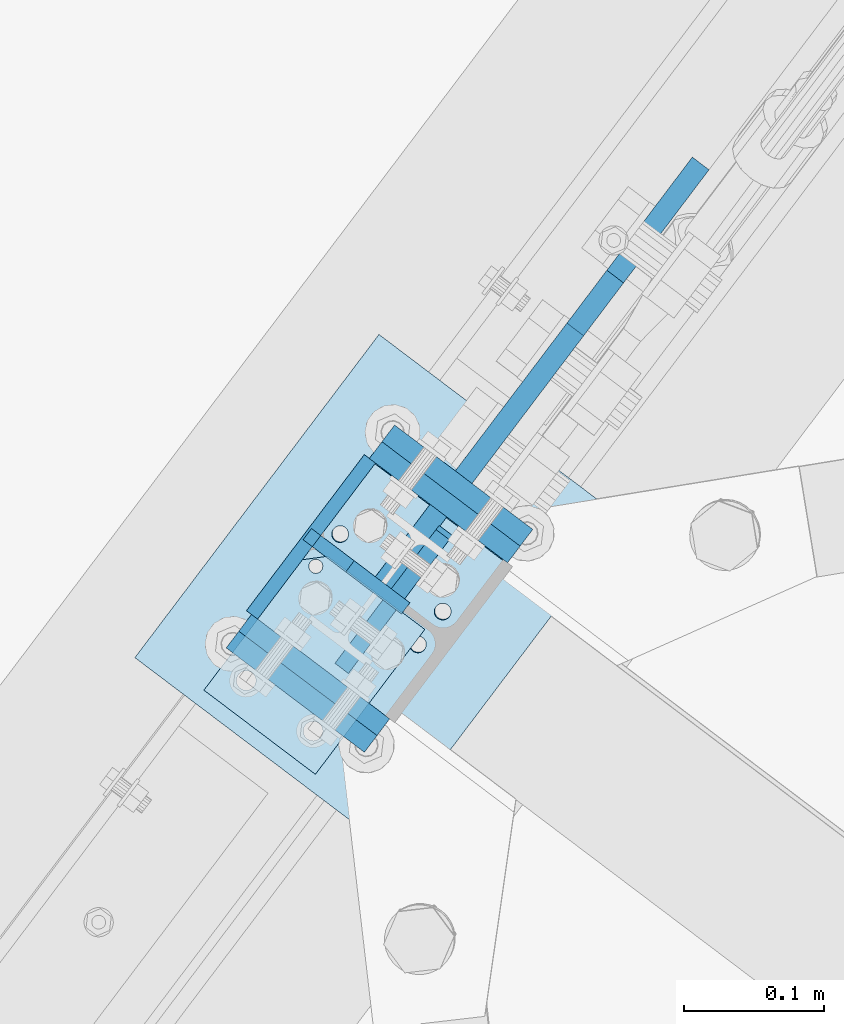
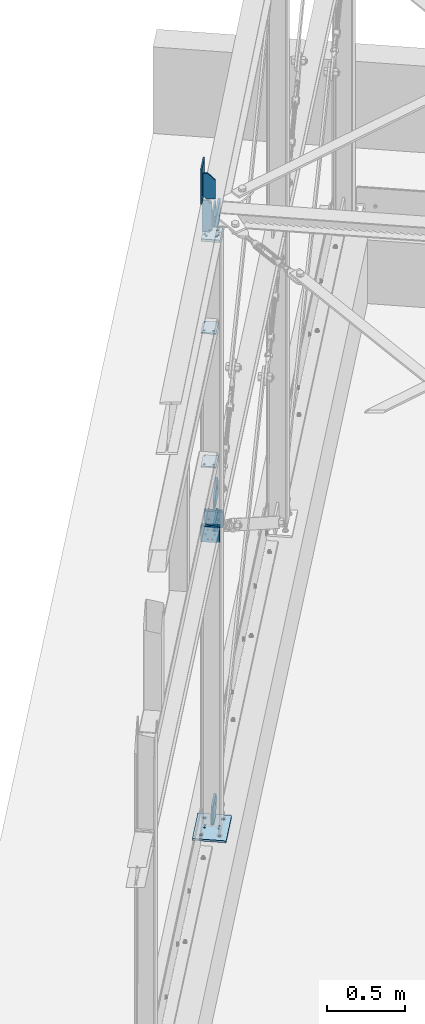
# One storey, part 58 of 476: 16 plates, 57 openings.
"""IFC2X3 building model written with IfcOpenShell, lengths in millimetres."""

from ifc_helpers import new_model, entity, si_unit, converted_unit, point, frame, frame_2d, origin, origin_with_axes, origin_2d_with_axis, place, context, project, spatial, polyline, circle_curve, line_curve, trimmed, segment, composite_curve, circle, outline, extrude, material, layer, layer_set, element, save


model = new_model("IFC2X3")

# Units and contexts
model_context = context("Model", 3, precision=1e-09, world=origin_with_axes())
ifc_project = project(units=[si_unit("LENGTHUNIT", "METRE", prefix="MILLI"), si_unit("AREAUNIT", "SQUARE_METRE"), si_unit("VOLUMEUNIT", "CUBIC_METRE"), converted_unit("PLANEANGLEUNIT", "DEGREE", entity("IfcPlaneAngleMeasure", 0.01745329), si_unit("PLANEANGLEUNIT", "RADIAN"), dimensions=[0, 0, 0, 0, 0, 0, 0])], contexts=[model_context])

# Site, building, storey
site_placement = place(None, origin_with_axes())
site = spatial("IfcSite", under=ifc_project, at=site_placement, Name="mKR Teilneubau & Sanierung BA1 - Ostfildern", CompositionType="ELEMENT")
building_placement = place(site_placement, origin_with_axes())
building = spatial("IfcBuilding", under=site, at=building_placement, Name="Struktur 1", CompositionType="ELEMENT")
storey_placement = place(building_placement, origin_with_axes())
storey = spatial("IfcBuildingStorey", under=building, at=storey_placement, Name="Default Storey", CompositionType="ELEMENT", Elevation=0.0)

# Plate
ifc_material = material(Name="S235JR")
ifc_layer_1 = layer(ifc_material, 10.0)
ifc_layer_set_1 = layer_set([ifc_layer_1], Name="S235JR")
plate_1_placement = place(None, frame((4334.810388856, 5542.08192747, 5680.427730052), z_axis=(-0.797941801, 0.602734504, 0.0), x_axis=(0.602734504, 0.797941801, 0.0)))
element("IfcPlate", 1, at=plate_1_placement, inside=storey, material=ifc_layer_set_1, Name="-", ObjectType="-", context=model_context, shape_type="SweptSolid", body=[
    extrude(outline(polyline([(-30.0, -74.09833483), (110.0, -74.09833483), (110.0, 196.693894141), (-30.0, 200.90166517), (-30.0, -74.09833483)])), origin_with_axes(), (0.0, 0.0, 1.0), 10.0),
])

# Plate, openings
plate_2_placement = place(None, frame((4419.747980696, 5521.798750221, 5681.179396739), z_axis=(-0.602634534, -0.798017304, 0.0), x_axis=(-0.798017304, 0.602634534, 0.0)))
plate_2 = element("IfcPlate", 2, at=plate_2_placement, inside=storey, material=ifc_layer_set_1, Name="-", ObjectType="-", context=model_context, shape_type="SweptSolid", body=[
    extrude(outline(polyline([(0.0, 0.0), (80.0, 0.0), (80.0, 200.0), (0.0, 197.595559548), (0.0, 0.0)])), origin_with_axes(), (0.0, 0.0, -1.0), 10.0),
])
opening_1_placement = place(plate_2_placement, frame((0.0, 0.0, 0.01), z_axis=(0.0, 0.0, 1.0), x_axis=(1.0, 0.0, 0.0)))
element("IfcOpeningElement", 3, at=opening_1_placement, cuts=plate_2, ObjectType="Opening", context=model_context, shape_type="SweptSolid", body=[
    extrude(outline(polyline([(0.0, 0.0), (50.0, 0.0), (0.0, 50.0), (0.0, 0.0)])), origin(), (0.0, 0.0, -1.0), 10.02),
])
opening_2_placement = place(plate_2_placement, frame((80.0, 200.0, 0.01), z_axis=(0.0, 0.0, 1.0), x_axis=(-0.999548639, -0.03004194, 0.0)))
element("IfcOpeningElement", 4, at=opening_2_placement, cuts=plate_2, ObjectType="Opening", context=model_context, shape_type="SweptSolid", body=[
    extrude(outline(polyline([(0.0, 0.0), (20.0, 0.0), (0.600838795, 19.990972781), (0.0, 0.0)])), origin(), (0.0, 0.0, -1.0), 10.02),
])

plate_3_placement = place(None, frame((4275.290943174, 5463.285984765, 4520.0), z_axis=(0.0, 0.0, -1.0), x_axis=(0.602734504, 0.797941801, 0.0)))
plate_3 = element("IfcPlate", 5, at=plate_3_placement, inside=storey, material=ifc_layer_set_1, Name="-", ObjectType="-", context=model_context, shape_type="SweptSolid", body=[
    extrude(outline(polyline([(5.0, 0.0), (135.0, 0.0), (135.0, 100.0), (5.0, 100.0), (5.0, 0.0)])), origin_with_axes(), (0.0, 0.0, 1.0), 10.0),
])
opening_3_placement = place(plate_3_placement, frame((0.0, 0.0, -0.01), z_axis=(0.0, 0.0, 1.0), x_axis=(1.0, 0.0, 0.0)))
element("IfcOpeningElement", 6, at=opening_3_placement, cuts=plate_3, ObjectType="Opening", context=model_context, shape_type="SweptSolid", body=[
    extrude(outline(composite_curve([segment(trimmed(line_curve((135.0, 0.0), (0.0, 1.0), 13.0), [point((135.0, 0.0))], [point((135.0, 13.0))], True, "CARTESIAN"), True, "CONTINUOUS"), segment(trimmed(circle_curve(frame_2d((122.0, 13.0), x_axis=(-1.0, 0.0)), 13.0), [point((135.0, 13.0))], [point((122.0, 0.0))], False, "CARTESIAN"), True, "CONTINUOUS"), segment(trimmed(line_curve((122.0, 0.0), (1.0, 0.0), 13.0), [point((122.0, 0.0))], [point((135.0, 0.0))], True, "CARTESIAN"), True, "CONTINUOUS")], self_intersect=False)), origin(), (0.0, 0.0, 1.0), 10.02),
])
opening_4_placement = place(plate_3_placement, frame((124.0, 10.5, -0.5), z_axis=(0.0, 0.0, 1.0), x_axis=(0.0, -1.0, 0.0)))
element("IfcOpeningElement", 7, at=opening_4_placement, cuts=plate_3, ObjectType="Opening", context=model_context, shape_type="SweptSolid", body=[
    extrude(circle(Radius=5.001, at=origin_2d_with_axis()), origin(), (0.0, 0.0, 1.0), 11.0),
])
opening_5_placement = place(plate_3_placement, frame((28.75, 50.0, 10.5), z_axis=(0.0, 0.0, -1.0), x_axis=(-1.0, 0.0, 0.0)))
element("IfcOpeningElement", 8, at=opening_5_placement, cuts=plate_3, ObjectType="Opening", context=model_context, shape_type="SweptSolid", body=[
    extrude(circle(Radius=7.001, at=frame_2d((0.0, 30.0), x_axis=(1.0, 0.0))), origin(), (0.0, 0.0, 1.0), 11.0),
])
opening_6_placement = place(plate_3_placement, frame((28.75, 50.0, 10.5), z_axis=(0.0, 0.0, -1.0), x_axis=(-1.0, 0.0, 0.0)))
element("IfcOpeningElement", 9, at=opening_6_placement, cuts=plate_3, ObjectType="Opening", context=model_context, shape_type="SweptSolid", body=[
    extrude(circle(Radius=7.001, at=frame_2d((0.0, -30.0), x_axis=(1.0, 0.0))), origin(), (0.0, 0.0, 1.0), 11.0),
])

plate_4_placement = place(None, frame((4401.14946096, 5535.834895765, 5223.363574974), z_axis=(0.602734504, 0.797941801, 0.0), x_axis=(-0.797941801, 0.602734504, 0.0)))
plate_4 = element("IfcPlate", 10, at=plate_4_placement, inside=storey, material=ifc_layer_set_1, Name="Stiffener#2", ObjectType="Stiffener#2", context=model_context, shape_type="SweptSolid", body=[
    extrude(outline(polyline([(0.0, 0.0), (65.0, 0.0), (65.0, 246.410800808), (0.0, 246.410800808), (0.0, 0.0)])), origin_with_axes(), (0.0, 0.0, 1.0), 10.0),
])
opening_7_placement = place(plate_4_placement, frame((0.0, 0.0, -0.01), z_axis=(0.0, 0.0, 1.0), x_axis=(1.0, 0.0, 0.0)))
element("IfcOpeningElement", 11, at=opening_7_placement, cuts=plate_4, ObjectType="Opening", context=model_context, shape_type="SweptSolid", body=[
    extrude(outline(composite_curve([segment(trimmed(line_curve((0.0, 246.410800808), (0.0, -1.0), 15.0), [point((0.0, 246.410800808))], [point((0.0, 231.410800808))], True, "CARTESIAN"), True, "CONTINUOUS"), segment(trimmed(circle_curve(frame_2d((15.0, 231.410800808), x_axis=(-1.0, 0.0)), 15.0), [point((0.0, 231.410800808))], [point((15.0, 246.410800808))], False, "CARTESIAN"), True, "CONTINUOUS"), segment(trimmed(line_curve((15.0, 246.410800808), (-1.0, 0.0), 15.0), [point((15.0, 246.410800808))], [point((0.0, 246.410800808))], True, "CARTESIAN"), True, "CONTINUOUS")], self_intersect=False)), origin(), (0.0, 0.0, 1.0), 10.02),
])
opening_8_placement = place(plate_4_placement, frame((0.0, 0.0, -0.01), z_axis=(0.0, 0.0, 1.0), x_axis=(1.0, 0.0, 0.0)))
element("IfcOpeningElement", 12, at=opening_8_placement, cuts=plate_4, ObjectType="Opening", context=model_context, shape_type="SweptSolid", body=[
    extrude(outline(composite_curve([segment(trimmed(line_curve((0.0, 0.0), (1.0, 0.0), 15.0), [point((0.0, 0.0))], [point((15.0, 0.0))], True, "CARTESIAN"), True, "CONTINUOUS"), segment(trimmed(circle_curve(frame_2d((15.0, 15.0), x_axis=(-1.0, 0.0)), 15.0), [point((15.0, 0.0))], [point((0.0, 15.0))], False, "CARTESIAN"), True, "CONTINUOUS"), segment(trimmed(line_curve((0.0, 15.0), (0.0, -1.0), 15.0), [point((0.0, 15.0))], [point((0.0, 0.0))], True, "CARTESIAN"), True, "CONTINUOUS")], self_intersect=False)), origin(), (0.0, 0.0, 1.0), 10.02),
])
opening_9_placement = place(plate_4_placement, frame((15.0, 13.499322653, -0.5), z_axis=(0.0, 0.0, 1.0), x_axis=(0.0, -1.0, 0.0)))
element("IfcOpeningElement", 13, at=opening_9_placement, cuts=plate_4, ObjectType="Opening", context=model_context, shape_type="SweptSolid", body=[
    extrude(circle(Radius=7.001, at=origin_2d_with_axis()), origin(), (0.0, 0.0, 1.0), 11.0),
])
opening_10_placement = place(plate_4_placement, frame((15.0, 233.212033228, -0.5), z_axis=(0.0, 0.0, 1.0), x_axis=(0.0, -1.0, 0.0)))
element("IfcOpeningElement", 14, at=opening_10_placement, cuts=plate_4, ObjectType="Opening", context=model_context, shape_type="SweptSolid", body=[
    extrude(circle(Radius=7.001, at=origin_2d_with_axis()), origin(), (0.0, 0.0, 1.0), 11.0),
])

# Plate, opening
ifc_layer_2 = layer(ifc_material, 15.0)
ifc_layer_set_2 = layer_set([ifc_layer_2], Name="S235JR")
plate_5_placement = place(None, frame((4458.292986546, 5624.260574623, 5214.513592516), z_axis=(0.797941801, -0.602734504, 0.0), x_axis=(0.0, 0.0, -1.0)))
plate_5 = element("IfcPlate", 15, at=plate_5_placement, inside=storey, material=ifc_layer_set_2, Name="-", ObjectType="-", context=model_context, shape_type="SweptSolid", body=[
    extrude(outline(polyline([(0.0, 0.0), (50.0, 0.0), (153.091413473, 235.380970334), (87.732289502, 281.513224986), (-8.461022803, 281.513224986), (0.0, 0.0)])), origin_with_axes(), (0.0, 0.0, 1.0), 15.0),
])
opening_11_placement = place(plate_5_placement, frame((85.812659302, 209.427754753, 15.499999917), z_axis=(0.0, 0.0, -1.0), x_axis=(-0.576653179, -0.816989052, 0.0)))
element("IfcOpeningElement", 16, at=opening_11_placement, cuts=plate_5, ObjectType="Opening", context=model_context, shape_type="SweptSolid", body=[
    extrude(circle(Radius=16.001, at=origin_2d_with_axis()), origin(), (0.0, 0.0, 1.0), 16.0),
])

plate_6_placement = place(None, frame((4470.26209744, 5615.219569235, 2969.000000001), z_axis=(-0.797941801, 0.602734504, 0.0), x_axis=(0.0, 0.0, 1.0)))
plate_6 = element("IfcPlate", 17, at=plate_6_placement, inside=storey, material=ifc_layer_set_2, Name="-", ObjectType="-", context=model_context, shape_type="SweptSolid", body=[
    extrude(outline(polyline([(0.0, 0.0), (66.252259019, 0.0), (163.818653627, 132.584146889), (99.384680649, 180.0), (0.0, 180.0), (0.0, 0.0)])), origin_with_axes(), (0.0, 0.0, 1.0), 15.0),
])
opening_12_placement = place(plate_6_placement, frame((96.039777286, 107.966593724, -0.5), z_axis=(0.0, 0.0, 1.0), x_axis=(-0.592698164, -0.805424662, 0.0)))
element("IfcOpeningElement", 18, at=opening_12_placement, cuts=plate_6, ObjectType="Opening", context=model_context, shape_type="SweptSolid", body=[
    extrude(circle(Radius=16.001, at=origin_2d_with_axis()), origin(), (0.0, 0.0, 1.0), 16.0),
])

plate_7_placement = place(None, frame((4458.292970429, 5624.260586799, 2855.000000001), z_axis=(0.797941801, -0.602734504, 0.0), x_axis=(0.0, 0.0, -1.0)))
plate_7 = element("IfcPlate", 19, at=plate_7_placement, inside=storey, material=ifc_layer_set_2, Name="-", ObjectType="-", context=model_context, shape_type="SweptSolid", body=[
    extrude(outline(polyline([(0.0, 0.0), (60.204013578, 0.0), (152.720460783, 134.709788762), (86.775053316, 179.999999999), (1e-09, 180.0), (0.0, 0.0)])), origin_with_axes(), (0.0, 0.0, 1.0), 15.0),
])
opening_13_placement = place(plate_7_placement, frame((85.780098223, 107.895839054, 15.5), z_axis=(0.0, 0.0, -1.0), x_axis=(-0.565737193, -0.82458561, 0.0)))
element("IfcOpeningElement", 20, at=opening_13_placement, cuts=plate_7, ObjectType="Opening", context=model_context, shape_type="SweptSolid", body=[
    extrude(circle(Radius=16.001, at=origin_2d_with_axis()), origin(), (0.0, 0.0, 1.0), 16.0),
])

# Plate, openings
plate_8_placement = place(None, frame((4411.645564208, 5537.618931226, 544.999999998), z_axis=(-0.797941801, 0.602734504, 0.0), x_axis=(0.0, 0.0, 1.0)))
plate_8 = element("IfcPlate", 21, at=plate_8_placement, inside=storey, material=ifc_layer_set_2, Name="-", ObjectType="-", context=model_context, shape_type="SweptSolid", body=[
    extrude(outline(polyline([(0.0, 0.0), (155.808276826, 0.0), (155.808276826, 153.459788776), (89.862869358, 198.75), (0.0, 138.75), (0.0, 0.0)])), origin_with_axes(), (0.0, 0.0, 1.0), 15.0),
])
opening_14_placement = place(plate_8_placement, frame((0.0, 0.0, -0.01), z_axis=(0.0, 0.0, 1.0), x_axis=(1.0, 0.0, 0.0)))
element("IfcOpeningElement", 22, at=opening_14_placement, cuts=plate_8, ObjectType="Opening", context=model_context, shape_type="SweptSolid", body=[
    extrude(outline(polyline([(0.0, 0.0), (20.0, 0.0), (0.0, 20.0), (0.0, 0.0)])), origin(), (0.0, 0.0, 1.0), 15.02),
])
opening_15_placement = place(plate_8_placement, frame((88.806644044, 126.687918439, -0.5), z_axis=(0.0, 0.0, 1.0), x_axis=(-0.56573719, -0.824585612, 0.0)))
element("IfcOpeningElement", 23, at=opening_15_placement, cuts=plate_8, ObjectType="Opening", context=model_context, shape_type="SweptSolid", body=[
    extrude(circle(Radius=16.001, at=origin_2d_with_axis()), origin(), (0.0, 0.0, 1.0), 16.0),
])

plate_9_placement = place(None, frame((4228.833363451, 5490.544346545, 545.0), z_axis=(0.0, 0.0, -1.0), x_axis=(0.602734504, 0.797941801, 0.0)))
plate_9 = element("IfcPlate", 24, at=plate_9_placement, inside=storey, material=ifc_layer_set_2, Name="Baseplate", ObjectType="Baseplate", context=model_context, shape_type="SweptSolid", body=[
    extrude(outline(polyline([(0.0, 0.0), (290.0, 0.0), (290.0, 220.0), (0.0, 220.0), (0.0, 0.0)])), origin_with_axes(), (0.0, 0.0, 1.0), 15.0),
])
opening_16_placement = place(plate_9_placement, frame((50.0, 170.0, 15.5), z_axis=(0.0, 0.0, -1.0), x_axis=(1.0, 0.0, 0.0)))
element("IfcOpeningElement", 25, at=opening_16_placement, cuts=plate_9, ObjectType="Opening", context=model_context, shape_type="SweptSolid", body=[
    extrude(circle(Radius=11.001, at=frame_2d((190.0, 120.0), x_axis=(1.0, 0.0))), origin(), (0.0, 0.0, 1.0), 16.0),
])
opening_17_placement = place(plate_9_placement, frame((50.0, 170.0, 15.5), z_axis=(0.0, 0.0, -1.0), x_axis=(1.0, 0.0, 0.0)))
element("IfcOpeningElement", 26, at=opening_17_placement, cuts=plate_9, ObjectType="Opening", context=model_context, shape_type="SweptSolid", body=[
    extrude(circle(Radius=11.001, at=frame_2d((0.0, 120.0), x_axis=(1.0, 0.0))), origin(), (0.0, 0.0, 1.0), 16.0),
])
opening_18_placement = place(plate_9_placement, frame((50.0, 170.0, 15.5), z_axis=(0.0, 0.0, -1.0), x_axis=(1.0, 0.0, 0.0)))
element("IfcOpeningElement", 27, at=opening_18_placement, cuts=plate_9, ObjectType="Opening", context=model_context, shape_type="SweptSolid", body=[
    extrude(circle(Radius=11.001, at=frame_2d((190.0, 0.0), x_axis=(1.0, 0.0))), origin(), (0.0, 0.0, 1.0), 16.0),
])
opening_19_placement = place(plate_9_placement, frame((50.0, 170.0, 15.5), z_axis=(0.0, 0.0, -1.0), x_axis=(1.0, 0.0, 0.0)))
element("IfcOpeningElement", 28, at=opening_19_placement, cuts=plate_9, ObjectType="Opening", context=model_context, shape_type="SweptSolid", body=[
    extrude(circle(Radius=11.001, at=origin_2d_with_axis()), origin(), (0.0, 0.0, 1.0), 16.0),
])
opening_20_placement = place(plate_9_placement, frame((159.75, 156.0, 15.5), z_axis=(0.0, 0.0, -1.0), x_axis=(0.0, 1.0, 0.0)))
element("IfcOpeningElement", 29, at=opening_20_placement, cuts=plate_9, ObjectType="Opening", context=model_context, shape_type="SweptSolid", body=[
    extrude(circle(Radius=6.001, at=origin_2d_with_axis()), origin(), (0.0, 0.0, 1.0), 16.0),
])
opening_21_placement = place(plate_9_placement, frame((159.75, 64.0, 15.5), z_axis=(0.0, 0.0, -1.0), x_axis=(0.0, 1.0, 0.0)))
element("IfcOpeningElement", 30, at=opening_21_placement, cuts=plate_9, ObjectType="Opening", context=model_context, shape_type="SweptSolid", body=[
    extrude(circle(Radius=6.001, at=origin_2d_with_axis()), origin(), (0.0, 0.0, 1.0), 16.0),
])
opening_22_placement = place(plate_9_placement, frame((130.25, 64.0, 15.5), z_axis=(0.0, 0.0, -1.0), x_axis=(0.0, 1.0, 0.0)))
element("IfcOpeningElement", 31, at=opening_22_placement, cuts=plate_9, ObjectType="Opening", context=model_context, shape_type="SweptSolid", body=[
    extrude(circle(Radius=6.001, at=origin_2d_with_axis()), origin(), (0.0, 0.0, 1.0), 16.0),
])
opening_23_placement = place(plate_9_placement, frame((130.25, 156.0, 15.5), z_axis=(0.0, 0.0, -1.0), x_axis=(0.0, 1.0, 0.0)))
element("IfcOpeningElement", 32, at=opening_23_placement, cuts=plate_9, ObjectType="Opening", context=model_context, shape_type="SweptSolid", body=[
    extrude(circle(Radius=6.001, at=origin_2d_with_axis()), origin(), (0.0, 0.0, 1.0), 16.0),
])

plate_10_placement = place(None, frame((4343.730030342, 5460.150919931, 2912.000000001), z_axis=(0.602734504, 0.797941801, 0.0), x_axis=(0.0, 0.0, -1.0)))
plate_10 = element("IfcPlate", 33, at=plate_10_placement, inside=storey, material=ifc_layer_set_2, Name="Endplate#1", ObjectType="Endplate#1", context=model_context, shape_type="SweptSolid", body=[
    extrude(outline(polyline([(-62.0, -62.0), (62.0, -62.0), (62.0, 62.0), (-62.0, 62.0), (-62.0, -62.0)])), origin_with_axes(), (0.0, 0.0, 1.0), 15.0),
])
opening_24_placement = place(plate_10_placement, frame((-37.0, -14.5, 15.5), z_axis=(0.0, 0.0, -1.0), x_axis=(1.0, 0.0, 0.0)))
element("IfcOpeningElement", 34, at=opening_24_placement, cuts=plate_10, ObjectType="Opening", context=model_context, shape_type="SweptSolid", body=[
    extrude(circle(Radius=6.001, at=origin_2d_with_axis()), origin(), (0.0, 0.0, 1.0), 16.0),
])
opening_25_placement = place(plate_10_placement, frame((37.0, -14.5, 15.5), z_axis=(0.0, 0.0, -1.0), x_axis=(1.0, 0.0, 0.0)))
element("IfcOpeningElement", 35, at=opening_25_placement, cuts=plate_10, ObjectType="Opening", context=model_context, shape_type="SweptSolid", body=[
    extrude(circle(Radius=6.001, at=origin_2d_with_axis()), origin(), (0.0, 0.0, 1.0), 16.0),
])
opening_26_placement = place(plate_10_placement, frame((37.0, 14.5, 15.5), z_axis=(0.0, 0.0, -1.0), x_axis=(1.0, 0.0, 0.0)))
element("IfcOpeningElement", 36, at=opening_26_placement, cuts=plate_10, ObjectType="Opening", context=model_context, shape_type="SweptSolid", body=[
    extrude(circle(Radius=6.001, at=origin_2d_with_axis()), origin(), (0.0, 0.0, 1.0), 16.0),
])
opening_27_placement = place(plate_10_placement, frame((-37.0, 14.5, 15.5), z_axis=(0.0, 0.0, -1.0), x_axis=(1.0, 0.0, 0.0)))
element("IfcOpeningElement", 37, at=opening_27_placement, cuts=plate_10, ObjectType="Opening", context=model_context, shape_type="SweptSolid", body=[
    extrude(circle(Radius=6.001, at=origin_2d_with_axis()), origin(), (0.0, 0.0, 1.0), 16.0),
])
opening_28_placement = place(plate_10_placement, frame((0.0, -30.0, 15.5), z_axis=(0.0, 0.0, -1.0), x_axis=(0.0, -1.0, 0.0)))
element("IfcOpeningElement", 38, at=opening_28_placement, cuts=plate_10, ObjectType="Opening", context=model_context, shape_type="SweptSolid", body=[
    extrude(circle(Radius=7.001, at=origin_2d_with_axis()), origin(), (0.0, 0.0, 1.0), 16.0),
])
opening_29_placement = place(plate_10_placement, frame((0.0, 30.0, 15.5), z_axis=(0.0, 0.0, -1.0), x_axis=(-1.0, 0.0, 0.0)))
element("IfcOpeningElement", 39, at=opening_29_placement, cuts=plate_10, ObjectType="Opening", context=model_context, shape_type="SweptSolid", body=[
    extrude(circle(Radius=7.001, at=origin_2d_with_axis()), origin(), (0.0, 0.0, 1.0), 16.0),
])

plate_11_placement = place(None, frame((4361.81204935, 5484.08918613, 2912.000000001), z_axis=(-0.602734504, -0.797941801, 0.0), x_axis=(-0.797941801, 0.602734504, 0.0)))
plate_11 = element("IfcPlate", 40, at=plate_11_placement, inside=storey, material=ifc_layer_set_2, Name="T-plate", ObjectType="T-plate", context=model_context, shape_type="SweptSolid", body=[
    extrude(outline(polyline([(-62.0, -62.0), (62.0, -62.0), (62.0, 62.0), (-62.0, 62.0), (-62.0, -62.0)])), origin_with_axes(), (0.0, 0.0, 1.0), 15.0),
])
opening_30_placement = place(plate_11_placement, frame((29.999979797, 0.0, -0.5), z_axis=(0.0, 0.0, 1.0), x_axis=(0.0, -1.0, 0.0)))
element("IfcOpeningElement", 41, at=opening_30_placement, cuts=plate_11, ObjectType="Opening", context=model_context, shape_type="SweptSolid", body=[
    extrude(circle(Radius=7.001, at=origin_2d_with_axis()), origin(), (0.0, 0.0, 1.0), 16.0),
])
opening_31_placement = place(plate_11_placement, frame((-30.000020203, 0.0, -0.5), z_axis=(0.0, 0.0, 1.0), x_axis=(-1.0, 0.0, 0.0)))
element("IfcOpeningElement", 42, at=opening_31_placement, cuts=plate_11, ObjectType="Opening", context=model_context, shape_type="SweptSolid", body=[
    extrude(circle(Radius=7.001, at=origin_2d_with_axis()), origin(), (0.0, 0.0, 1.0), 16.0),
])

plate_12_placement = place(None, frame((4464.2769312, 5619.739280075, 2912.000000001), z_axis=(-0.602734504, -0.797941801, 0.0), x_axis=(0.0, 0.0, -1.0)))
plate_12 = element("IfcPlate", 43, at=plate_12_placement, inside=storey, material=ifc_layer_set_2, Name="Endplate#1", ObjectType="Endplate#1", context=model_context, shape_type="SweptSolid", body=[
    extrude(outline(polyline([(-62.0, -62.0), (62.0, -62.0), (62.0, 62.0), (-62.0, 62.0), (-62.0, -62.0)])), origin_with_axes(), (0.0, 0.0, 1.0), 15.0),
])
opening_32_placement = place(plate_12_placement, frame((-37.0, 14.5, 15.5), z_axis=(0.0, 0.0, -1.0), x_axis=(-1.0, 0.0, 0.0)))
element("IfcOpeningElement", 44, at=opening_32_placement, cuts=plate_12, ObjectType="Opening", context=model_context, shape_type="SweptSolid", body=[
    extrude(circle(Radius=6.001, at=origin_2d_with_axis()), origin(), (0.0, 0.0, 1.0), 16.0),
])
opening_33_placement = place(plate_12_placement, frame((37.0, 14.5, 15.5), z_axis=(0.0, 0.0, -1.0), x_axis=(-1.0, 0.0, 0.0)))
element("IfcOpeningElement", 45, at=opening_33_placement, cuts=plate_12, ObjectType="Opening", context=model_context, shape_type="SweptSolid", body=[
    extrude(circle(Radius=6.001, at=origin_2d_with_axis()), origin(), (0.0, 0.0, 1.0), 16.0),
])
opening_34_placement = place(plate_12_placement, frame((37.0, -14.5, 15.5), z_axis=(0.0, 0.0, -1.0), x_axis=(-1.0, 0.0, 0.0)))
element("IfcOpeningElement", 46, at=opening_34_placement, cuts=plate_12, ObjectType="Opening", context=model_context, shape_type="SweptSolid", body=[
    extrude(circle(Radius=6.001, at=origin_2d_with_axis()), origin(), (0.0, 0.0, 1.0), 16.0),
])
opening_35_placement = place(plate_12_placement, frame((-37.0, -14.5, 15.5), z_axis=(0.0, 0.0, -1.0), x_axis=(-1.0, 0.0, 0.0)))
element("IfcOpeningElement", 47, at=opening_35_placement, cuts=plate_12, ObjectType="Opening", context=model_context, shape_type="SweptSolid", body=[
    extrude(circle(Radius=6.001, at=origin_2d_with_axis()), origin(), (0.0, 0.0, 1.0), 16.0),
])
opening_36_placement = place(plate_12_placement, frame((0.0, -30.0, 15.5), z_axis=(0.0, 0.0, -1.0), x_axis=(0.0, -1.0, 0.0)))
element("IfcOpeningElement", 48, at=opening_36_placement, cuts=plate_12, ObjectType="Opening", context=model_context, shape_type="SweptSolid", body=[
    extrude(circle(Radius=7.001, at=origin_2d_with_axis()), origin(), (0.0, 0.0, 1.0), 16.0),
])
opening_37_placement = place(plate_12_placement, frame((0.0, 30.0, 15.5), z_axis=(0.0, 0.0, -1.0), x_axis=(-1.0, 0.0, 0.0)))
element("IfcOpeningElement", 49, at=opening_37_placement, cuts=plate_12, ObjectType="Opening", context=model_context, shape_type="SweptSolid", body=[
    extrude(circle(Radius=7.001, at=origin_2d_with_axis()), origin(), (0.0, 0.0, 1.0), 16.0),
])

plate_13_placement = place(None, frame((4446.19487995, 5595.801038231, 2912.000000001), z_axis=(0.602734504, 0.797941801, 0.0), x_axis=(0.797941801, -0.602734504, 0.0)))
plate_13 = element("IfcPlate", 50, at=plate_13_placement, inside=storey, material=ifc_layer_set_2, Name="T-plate", ObjectType="T-plate", context=model_context, shape_type="SweptSolid", body=[
    extrude(outline(polyline([(-62.0, -62.0), (62.0, -62.0), (62.0, 62.0), (-62.0, 62.0), (-62.0, -62.0)])), origin_with_axes(), (0.0, 0.0, 1.0), 15.0),
])
opening_38_placement = place(plate_13_placement, frame((30.000020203, 0.0, -0.5), z_axis=(0.0, 0.0, 1.0), x_axis=(0.0, -1.0, 0.0)))
element("IfcOpeningElement", 51, at=opening_38_placement, cuts=plate_13, ObjectType="Opening", context=model_context, shape_type="SweptSolid", body=[
    extrude(circle(Radius=7.001, at=origin_2d_with_axis()), origin(), (0.0, 0.0, 1.0), 16.0),
])
opening_39_placement = place(plate_13_placement, frame((-29.999979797, 0.0, -0.5), z_axis=(0.0, 0.0, 1.0), x_axis=(-1.0, 0.0, 0.0)))
element("IfcOpeningElement", 52, at=opening_39_placement, cuts=plate_13, ObjectType="Opening", context=model_context, shape_type="SweptSolid", body=[
    extrude(circle(Radius=7.001, at=origin_2d_with_axis()), origin(), (0.0, 0.0, 1.0), 16.0),
])

ifc_layer_3 = layer(ifc_material, 20.0)
ifc_layer_set_3 = layer_set([ifc_layer_3], Name="S235JR")
plate_14_placement = place(None, frame((4404.003464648, 5539.945112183, 5191.49898043), z_axis=(-0.018107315, -0.023971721, 0.999548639), x_axis=(0.797941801, -0.602734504, 0.0)))
plate_14 = element("IfcPlate", 53, at=plate_14_placement, inside=storey, material=ifc_layer_set_3, Name="Endplate", ObjectType="Endplate", context=model_context, shape_type="SweptSolid", body=[
    extrude(outline(polyline([(-61.5, -70.0), (61.5, -70.0), (61.5, 70.0), (-61.5, 70.0), (-61.5, -70.0)])), origin_with_axes(), (0.0, 0.0, 1.0), 20.0),
])
opening_40_placement = place(plate_14_placement, frame((46.0, 14.751241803, 20.5), z_axis=(0.0, 0.0, -1.0), x_axis=(-1.0, 0.0, 0.0)))
element("IfcOpeningElement", 54, at=opening_40_placement, cuts=plate_14, ObjectType="Opening", context=model_context, shape_type="SweptSolid", body=[
    extrude(circle(Radius=6.001, at=origin_2d_with_axis()), origin(), (0.0, 0.0, 1.0), 21.0),
])
opening_41_placement = place(plate_14_placement, frame((-46.0, 14.751241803, 20.5), z_axis=(0.0, 0.0, -1.0), x_axis=(-1.0, 0.0, 0.0)))
element("IfcOpeningElement", 55, at=opening_41_placement, cuts=plate_14, ObjectType="Opening", context=model_context, shape_type="SweptSolid", body=[
    extrude(circle(Radius=6.001, at=origin_2d_with_axis()), origin(), (0.0, 0.0, 1.0), 21.0),
])
opening_42_placement = place(plate_14_placement, frame((-46.0, -14.751241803, 20.5), z_axis=(0.0, 0.0, -1.0), x_axis=(-1.0, 0.0, 0.0)))
element("IfcOpeningElement", 56, at=opening_42_placement, cuts=plate_14, ObjectType="Opening", context=model_context, shape_type="SweptSolid", body=[
    extrude(circle(Radius=6.001, at=origin_2d_with_axis()), origin(), (0.0, 0.0, 1.0), 21.0),
])
opening_43_placement = place(plate_14_placement, frame((46.0, -14.751241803, 20.5), z_axis=(0.0, 0.0, -1.0), x_axis=(-1.0, 0.0, 0.0)))
element("IfcOpeningElement", 57, at=opening_43_placement, cuts=plate_14, ObjectType="Opening", context=model_context, shape_type="SweptSolid", body=[
    extrude(circle(Radius=6.001, at=origin_2d_with_axis()), origin(), (0.0, 0.0, 1.0), 21.0),
])
opening_44_placement = place(plate_14_placement, frame((32.5, 25.499, -0.5), z_axis=(0.0, 0.0, -1.0), x_axis=(-1.0, 0.0, 0.0)))
element("IfcOpeningElement", 58, at=opening_44_placement, cuts=plate_14, ObjectType="Opening", context=model_context, shape_type="SweptSolid", body=[
    extrude(circle(Radius=7.001, at=frame_2d((0.0, 7.001), x_axis=(1.0, 0.0))), origin(), (0.0, 0.0, -1.0), 21.0),
])
opening_45_placement = place(plate_14_placement, frame((-32.5, -25.499, -0.5), z_axis=(0.0, 0.0, -1.0), x_axis=(-1.0, 0.0, 0.0)))
element("IfcOpeningElement", 59, at=opening_45_placement, cuts=plate_14, ObjectType="Opening", context=model_context, shape_type="SweptSolid", body=[
    extrude(circle(Radius=7.001, at=frame_2d((0.0, -7.001), x_axis=(1.0, 0.0))), origin(), (0.0, 0.0, -1.0), 21.0),
])
opening_46_placement = place(plate_14_placement, frame((-32.5, 25.499, -0.5), z_axis=(0.0, 0.0, -1.0), x_axis=(-1.0, 0.0, 0.0)))
element("IfcOpeningElement", 60, at=opening_46_placement, cuts=plate_14, ObjectType="Opening", context=model_context, shape_type="SweptSolid", body=[
    extrude(circle(Radius=7.001, at=frame_2d((0.0, 7.001), x_axis=(1.0, 0.0))), origin(), (0.0, 0.0, -1.0), 21.0),
])
opening_47_placement = place(plate_14_placement, frame((32.5, -25.499, -0.5), z_axis=(0.0, 0.0, -1.0), x_axis=(-1.0, 0.0, 0.0)))
element("IfcOpeningElement", 61, at=opening_47_placement, cuts=plate_14, ObjectType="Opening", context=model_context, shape_type="SweptSolid", body=[
    extrude(circle(Radius=7.001, at=frame_2d((0.0, -7.001), x_axis=(1.0, 0.0))), origin(), (0.0, 0.0, -1.0), 21.0),
])

ifc_layer_4 = layer(ifc_material, 12.0)
ifc_layer_set_4 = layer_set([ifc_layer_4], Name="S235JR")
plate_15_placement = place(None, frame((4444.455175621, 5582.21591384, 5428.37588189), z_axis=(0.797941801, -0.602734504, 0.0), x_axis=(-0.602462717, -0.79758199, -0.030027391)))
plate_15 = element("IfcPlate", 62, at=plate_15_placement, inside=storey, material=ifc_layer_set_4, Name="Endplate", ObjectType="Endplate", context=model_context, shape_type="SweptSolid", body=[
    extrude(outline(polyline([(0.0, 0.0), (120.0, 0.0), (120.0, 124.0), (0.0, 124.0), (0.0, 0.0)])), origin_with_axes(), (0.0, 0.0, 1.0), 12.0),
])
opening_48_placement = place(plate_15_placement, frame((74.5, 99.0, -0.5), z_axis=(0.0, 0.0, 1.0), x_axis=(0.0, -1.0, 0.0)))
element("IfcOpeningElement", 63, at=opening_48_placement, cuts=plate_15, ObjectType="Opening", context=model_context, shape_type="SweptSolid", body=[
    extrude(circle(Radius=6.001, at=origin_2d_with_axis()), origin(), (0.0, 0.0, 1.0), 13.0),
])
opening_49_placement = place(plate_15_placement, frame((74.5, 25.0, -0.5), z_axis=(0.0, 0.0, 1.0), x_axis=(0.0, -1.0, 0.0)))
element("IfcOpeningElement", 64, at=opening_49_placement, cuts=plate_15, ObjectType="Opening", context=model_context, shape_type="SweptSolid", body=[
    extrude(circle(Radius=6.001, at=origin_2d_with_axis()), origin(), (0.0, 0.0, 1.0), 13.0),
])
opening_50_placement = place(plate_15_placement, frame((45.5, 25.0, -0.5), z_axis=(0.0, 0.0, 1.0), x_axis=(0.0, -1.0, 0.0)))
element("IfcOpeningElement", 65, at=opening_50_placement, cuts=plate_15, ObjectType="Opening", context=model_context, shape_type="SweptSolid", body=[
    extrude(circle(Radius=6.001, at=origin_2d_with_axis()), origin(), (0.0, 0.0, 1.0), 13.0),
])
opening_51_placement = place(plate_15_placement, frame((45.5, 99.0, -0.5), z_axis=(0.0, 0.0, 1.0), x_axis=(0.0, -1.0, 0.0)))
element("IfcOpeningElement", 66, at=opening_51_placement, cuts=plate_15, ObjectType="Opening", context=model_context, shape_type="SweptSolid", body=[
    extrude(circle(Radius=6.001, at=origin_2d_with_axis()), origin(), (0.0, 0.0, 1.0), 13.0),
])
opening_52_placement = place(plate_15_placement, frame((30.0, 62.0, -0.5), z_axis=(0.0, 0.0, 1.0), x_axis=(0.0, -1.0, 0.0)))
element("IfcOpeningElement", 67, at=opening_52_placement, cuts=plate_15, ObjectType="Opening", context=model_context, shape_type="SweptSolid", body=[
    extrude(circle(Radius=7.001, at=origin_2d_with_axis()), origin(), (0.0, 0.0, 1.0), 13.0),
])
opening_53_placement = place(plate_15_placement, frame((90.0, 62.0, -0.5), z_axis=(0.0, 0.0, 1.0), x_axis=(0.0, -1.0, 0.0)))
element("IfcOpeningElement", 68, at=opening_53_placement, cuts=plate_15, ObjectType="Opening", context=model_context, shape_type="SweptSolid", body=[
    extrude(circle(Radius=7.001, at=origin_2d_with_axis()), origin(), (0.0, 0.0, 1.0), 13.0),
])

plate_16_placement = place(None, frame((4275.290943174, 5463.285984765, 3470.0), z_axis=(0.0, 0.0, -1.0), x_axis=(0.602734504, 0.797941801, 0.0)))
plate_16 = element("IfcPlate", 69, at=plate_16_placement, inside=storey, material=ifc_layer_set_1, Name="-", ObjectType="-", context=model_context, shape_type="SweptSolid", body=[
    extrude(outline(polyline([(5.0, 0.0), (135.0, 0.0), (135.0, 100.0), (5.0, 100.0), (5.0, 0.0)])), origin_with_axes(), (0.0, 0.0, 1.0), 10.0),
])
opening_54_placement = place(plate_16_placement, frame((0.0, 0.0, -0.01), z_axis=(0.0, 0.0, 1.0), x_axis=(1.0, 0.0, 0.0)))
element("IfcOpeningElement", 70, at=opening_54_placement, cuts=plate_16, ObjectType="Opening", context=model_context, shape_type="SweptSolid", body=[
    extrude(outline(composite_curve([segment(trimmed(line_curve((135.0, 0.0), (0.0, 1.0), 13.0), [point((135.0, 0.0))], [point((135.0, 13.0))], True, "CARTESIAN"), True, "CONTINUOUS"), segment(trimmed(circle_curve(frame_2d((122.0, 13.0), x_axis=(-1.0, 0.0)), 13.0), [point((135.0, 13.0))], [point((122.0, 0.0))], False, "CARTESIAN"), True, "CONTINUOUS"), segment(trimmed(line_curve((122.0, 0.0), (1.0, 0.0), 13.0), [point((122.0, 0.0))], [point((135.0, 0.0))], True, "CARTESIAN"), True, "CONTINUOUS")], self_intersect=False)), origin(), (0.0, 0.0, 1.0), 10.02),
])
opening_55_placement = place(plate_16_placement, frame((124.0, 10.5, -0.5), z_axis=(0.0, 0.0, 1.0), x_axis=(0.0, -1.0, 0.0)))
element("IfcOpeningElement", 71, at=opening_55_placement, cuts=plate_16, ObjectType="Opening", context=model_context, shape_type="SweptSolid", body=[
    extrude(circle(Radius=5.001, at=origin_2d_with_axis()), origin(), (0.0, 0.0, 1.0), 11.0),
])
opening_56_placement = place(plate_16_placement, frame((28.75, 50.0, 10.5), z_axis=(0.0, 0.0, -1.0), x_axis=(-1.0, 0.0, 0.0)))
element("IfcOpeningElement", 72, at=opening_56_placement, cuts=plate_16, ObjectType="Opening", context=model_context, shape_type="SweptSolid", body=[
    extrude(circle(Radius=7.001, at=frame_2d((0.0, 30.0), x_axis=(1.0, 0.0))), origin(), (0.0, 0.0, 1.0), 11.0),
])
opening_57_placement = place(plate_16_placement, frame((28.75, 50.0, 10.5), z_axis=(0.0, 0.0, -1.0), x_axis=(-1.0, 0.0, 0.0)))
element("IfcOpeningElement", 73, at=opening_57_placement, cuts=plate_16, ObjectType="Opening", context=model_context, shape_type="SweptSolid", body=[
    extrude(circle(Radius=7.001, at=frame_2d((0.0, -30.0), x_axis=(1.0, 0.0))), origin(), (0.0, 0.0, 1.0), 11.0),
])

save(model, "model.ifc")
